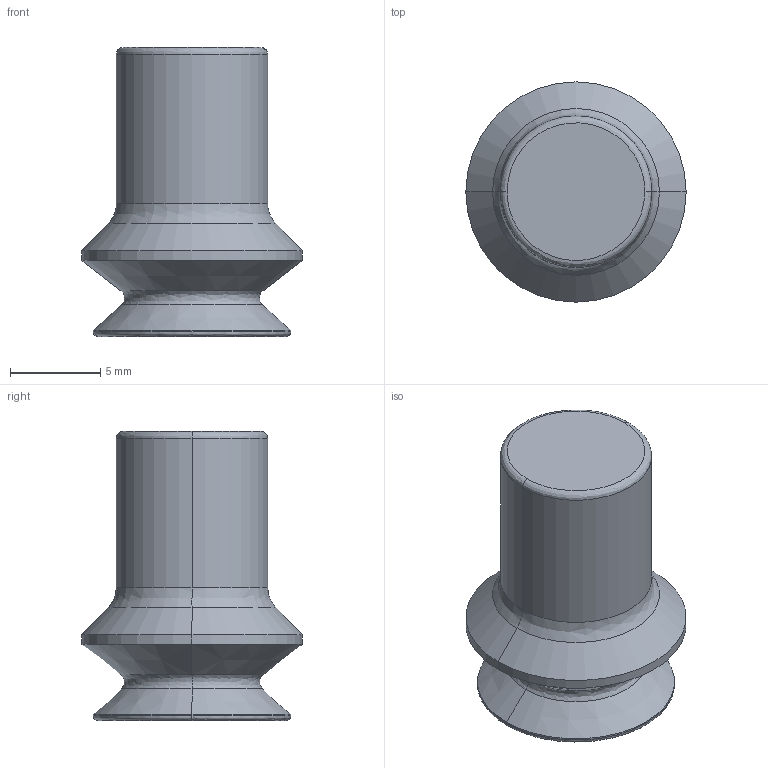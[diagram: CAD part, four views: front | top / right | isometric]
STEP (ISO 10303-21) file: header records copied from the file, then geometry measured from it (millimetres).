
FILE_DESCRIPTION (( 'STEP AP214' ), '1' );
FILE_NAME ('XP-B10.STEP', '2013-10-23T13:08:39', ( 'user' ), ( '' ), 'SwSTEP 2.0', 'SolidWorks 2009', '' );
FILE_SCHEMA (( 'AUTOMOTIVE_DESIGN' ));
Length unit declared in the file: millimetre
Products named in the file (1): XP-B10
Bounding box: 12.19 x 12.19 x 16 mm (x, y, z)
Volume: 1040.6 mm3; surface area: 674 mm2
Topology: 1 solids, 1 shells, 22 faces, 42 edges, 22 vertices
Faces by surface type: bspline 8, cylinder 6, cone 6, plane 2
Entity records: 659 total; most frequent: CARTESIAN_POINT 219, DIRECTION 94, ORIENTED_EDGE 84, EDGE_CURVE 42, AXIS2_PLACEMENT_3D 41, CIRCLE 26, FACE_OUTER_BOUND 22, ADVANCED_FACE 22
